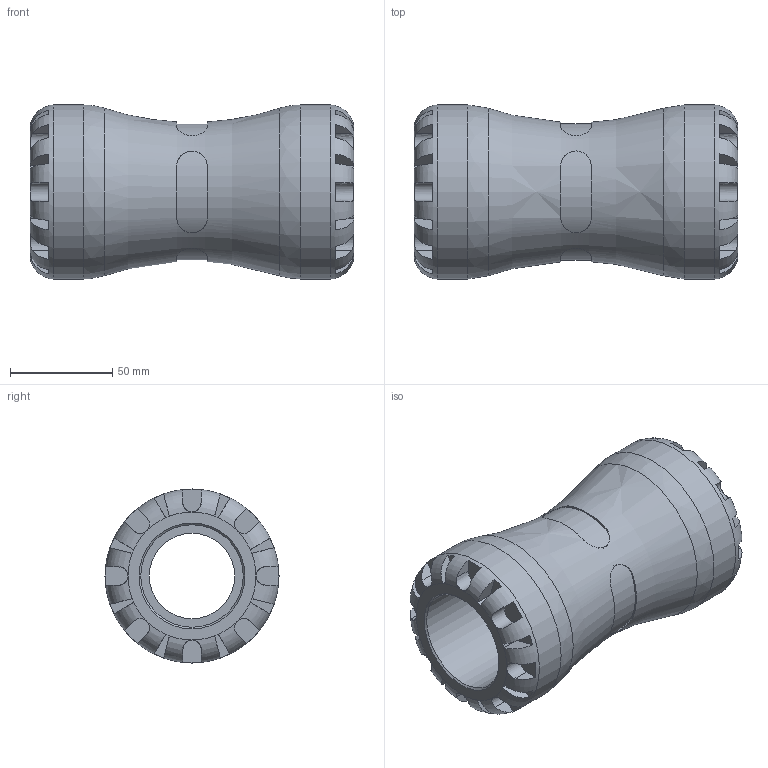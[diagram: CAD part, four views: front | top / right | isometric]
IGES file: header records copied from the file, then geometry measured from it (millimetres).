
Global section: file name: 100100050_190100050.ipt; native system: Autodesk Inventor 2015; preprocessor: unknown; author: KIM; date: 20170117.105926; units: millimetre
Bounding box: 158 x 85 x 85 mm (x, y, z)
Volume: 425617.3 mm3; surface area: 74808.5 mm2
Topology: 1 solids, 1 shells, 164 faces, 427 edges, 270 vertices
Faces by surface type: plane 108, revolution 34, cylinder 22
Full cylindrical faces by diameter (mm): 85 x2
